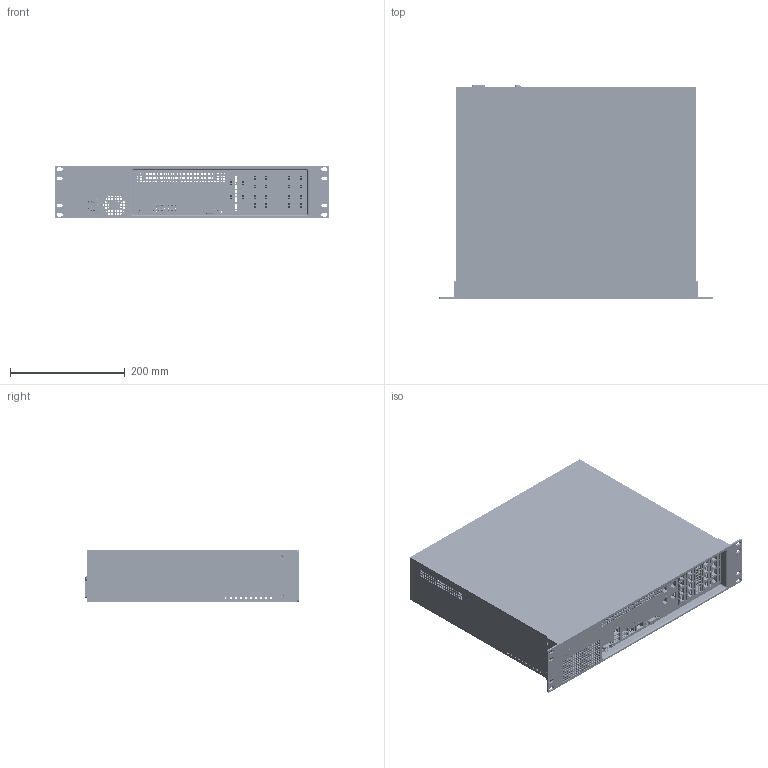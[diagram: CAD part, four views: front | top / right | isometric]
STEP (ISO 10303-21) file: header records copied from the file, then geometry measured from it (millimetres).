
FILE_DESCRIPTION(/* description */ (''),/* implementation_level */ '2;1');
FILE_NAME(/* name */ 'C:/Users/brook/Downloads/Large Server.step',/* time_stamp */ '2022-05-25T12:15:41-04:00',/* author */ (''),/* organization */ (''),/* preprocessor_version */ 'ST-DEVELOPER v18.1',/* originating_system */ 'Autodesk Translation Framework v10.14.0.1471',/* authorisation */ '');
FILE_SCHEMA (('AUTOMOTIVE_DESIGN { 1 0 10303 214 3 1 1 }'));
Products named in the file (37): Large Server (Constrained); Large Chassis Power Port; 91773A291_Stainless Steel Decorative Round Head Phillips Screws; 91771A144_Passivated 18-8 Stainless Steel Phillips Flat Head Screw; RJ45; RJ45_1; RJ45_2; RJ45_3; RJ45_4; RJ45_5; RJ45_6; RJ45_7; RJ45_8; RJ45_9; RJ45_10; RJ45_11; RJ45_12; RJ45_13; RJ45_14; RJ45_15; RJ45_16; RJ45_17; RJ45_18; RJ45_19; Large Server IO Panel; VGA Female (Good); VGA Male (good); Jack Screw for K42X-B25S-S-A4NJ-rA3; USB Port_SW 2015; USB Port_SW 2015_1; USB Port_SW 2015_2; USB Port_SW 2015_3; USB Port_SW 2015_4; RJ45_20; RJ45_21; RJ45_22; Component1
Assembly tree (68 placements, depth 4):
  Large Server (Constrained)
    Large Chassis Power Port
    91773A291_Stainless Steel Decorative Round Head Phillips Screws  x2
    91771A144_Passivated 18-8 Stainless Steel Phillips Flat Head Screw  x4
    RJ45
      Component1
    RJ45_1
      Component1
    RJ45_2
      Component1
    RJ45_3
      Component1
    RJ45_4
      Component1
    RJ45_5
      Component1
    RJ45_6
      Component1
    RJ45_7
      Component1
    RJ45_8
      Component1
    RJ45_9
      Component1
    RJ45_10
      Component1
    RJ45_11
      Component1
    RJ45_12
      Component1
    RJ45_13
      Component1
    RJ45_14
      Component1
    RJ45_15
      Component1
    RJ45_16
      Component1
    RJ45_17
      Component1
    RJ45_18
      Component1
    RJ45_19
      Component1
    Large Server IO Panel
      VGA Female (Good)
      VGA Male (good)
      Jack Screw for K42X-B25S-S-A4NJ-rA3  x4
      USB Port_SW 2015
        USB Port_SW 2015_4
      USB Port_SW 2015_1
        USB Port_SW 2015_4
      USB Port_SW 2015_2
        USB Port_SW 2015_4
      USB Port_SW 2015_3
        USB Port_SW 2015_4
      RJ45_20
        Component1
      RJ45_21
        Component1
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Bounding box: 479.1 x 374.43 x 90.5 mm (x, y, z)
Volume: 979847.5 mm3; surface area: 1002318.8 mm2
Topology: 49 solids, 3032 shells, 13670 faces, 44045 edges, 33796 vertices
Faces by surface type: plane 8375, cylinder 3144, bspline 1653, torus 262, sphere 194, cone 42
Full cylindrical faces by diameter (mm): 0.635 x15, 0.65 x276, 0.66 x9, 1.016 x24, 1.8 x3, 2.261 x2, 2.271 x8, 2.474 x16, 2.845 x10, 3.048 x2, 3.099 x4, 3.454 x2, 3.505 x16, 3.708 x2, 3.797 x8, 3.899 x2, 3.912 x2, 3.988 x2, 4 x12, 4.054 x22, 5.486 x20, 5.5 x2, 5.677 x2, 6.6 x2, 8 x2, 10.363 x2
Entity records: 283570 total; most frequent: CARTESIAN_POINT 106819, ORIENTED_EDGE 36082, DIRECTION 30245, EDGE_CURVE 19899, LINE 14589, VECTOR 14589, VERTEX_POINT 14386, EDGE_LOOP 8124
